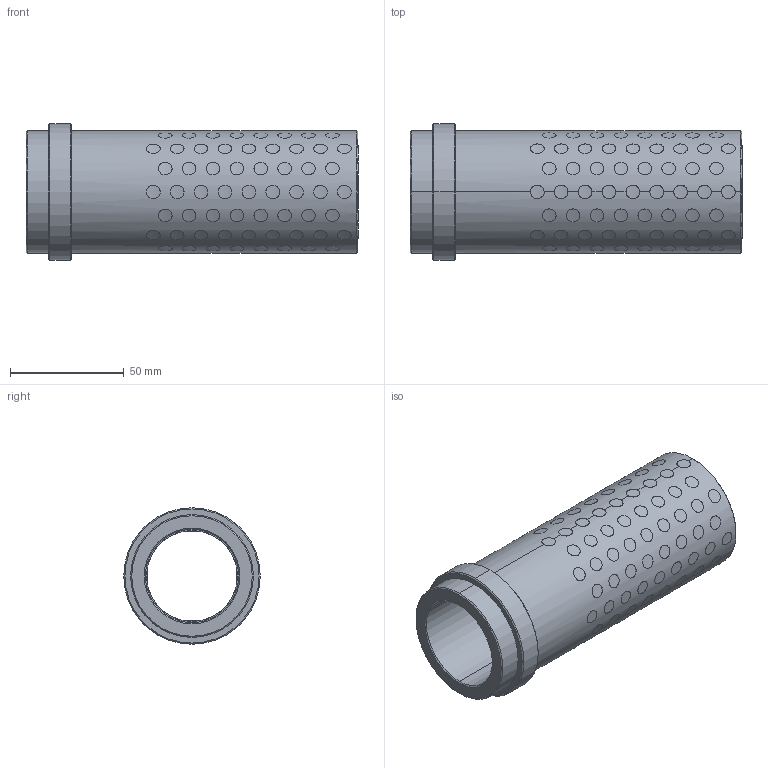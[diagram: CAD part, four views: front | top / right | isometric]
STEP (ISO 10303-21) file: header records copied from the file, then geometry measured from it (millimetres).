
FILE_DESCRIPTION((''),'2;1');
FILE_NAME('G31240136','2017-12-31T',('MANU'),(''),'PRO/ENGINEER BY PARAMETRIC TECHNOLOGY CORPORATION, 2012130','PRO/ENGINEER BY PARAMETRIC TECHNOLOGY CORPORATION, 2012130','');
FILE_SCHEMA(('CONFIG_CONTROL_DESIGN'));
Products named in the file (1): G31240136
Bounding box: 146 x 60 x 60 mm (x, y, z)
Volume: 152524.8 mm3; surface area: 82078.3 mm2
Topology: 137 solids, 137 shells, 843 faces, 1794 edges, 1192 vertices
Faces by surface type: cylinder 826, cone 12, plane 5
Entity records: 44570 total; most frequent: CARTESIAN_POINT 28201, ORIENTED_EDGE 3588, DIRECTION 2352, EDGE_CURVE 1794, VERTEX_POINT 1192, B_SPLINE_CURVE_WITH_KNOTS 1160, EDGE_LOOP 1084, AXIS2_PLACEMENT_3D 875
